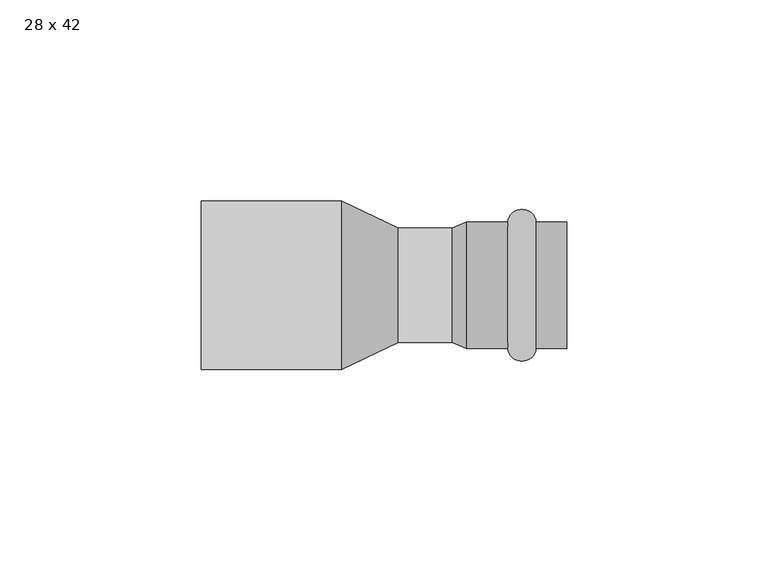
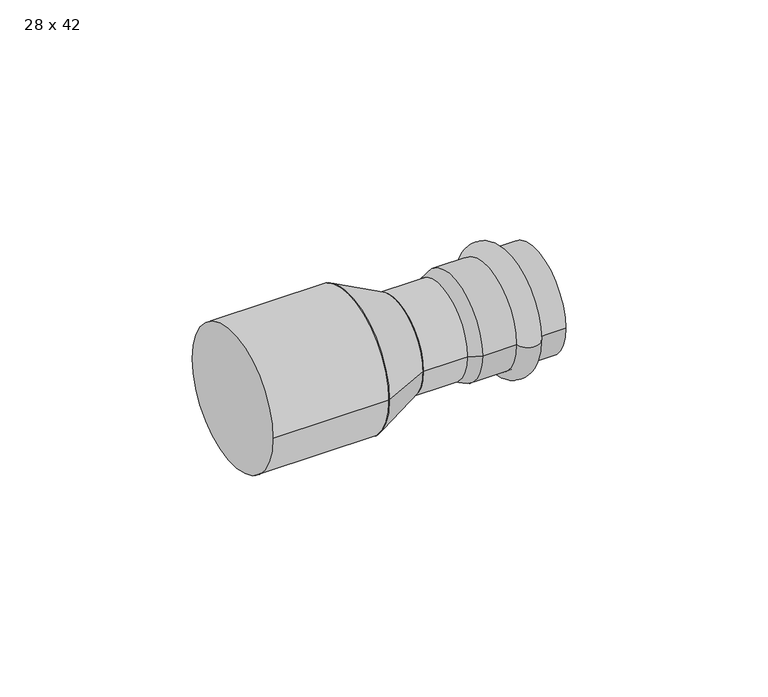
"""IFC4 building model written with IfcOpenShell, lengths in millimetres: pipe fitting geometry, РЕХАУ_Пресс Вставка переходная : 28 x 42."""

from ifc_helpers import new_model, si_unit, point, frame, origin, origin_2d, place, context, project, spatial, polyline, circle_curve, ellipse_curve, trimmed, segment, composite_curve, outline, extrude, source, transform, mapped, element, save
from ifc_brep_helpers import plane_surface, cylinder_surface, revolved_surface, advanced_brep


def pipe_fitting_28_x_42_a3f3c716(model_context):
    return source(origin(), model_context, "Body", "SolidModel", [
        advanced_brep(
        [(83.3, 15.75, 0.0), (83.3, -15.75, 0.0), (76.3, -15.75, 0.0), (76.3, 15.75, 0.0)],
        [
            (0, 1, circle_curve(frame((83.3, 0.0, 0.0), z_axis=(1.0, 0.0, 0.0), x_axis=(0.0, -1.0, 0.0)), 15.75)),
            (1, 2),
            (2, 3, circle_curve(frame((76.3, 0.0, 0.0), z_axis=(-1.0, 0.0, 0.0), x_axis=(0.0, -1.0, 0.0)), 15.75)),
            (3, 0),
            (1, 0, circle_curve(frame((83.3, 0.0, 0.0), z_axis=(1.0, 0.0, 0.0), x_axis=(0.0, -1.0, 0.0)), 15.75)),
            (3, 2, circle_curve(frame((76.3, 0.0, 0.0), z_axis=(-1.0, 0.0, 0.0), x_axis=(0.0, -1.0, 0.0)), 15.75)),
            (2, 1, ellipse_curve(frame((79.8, -15.75, 0.0), z_axis=(0.0, 0.0, 1.0), x_axis=(1.0, 0.0, 0.0)), 3.5, 3.1)),
            (0, 3, ellipse_curve(frame((79.8, 15.75, 0.0), z_axis=(0.0, 0.0, 1.0), x_axis=(1.0, 0.0, 0.0)), 3.5, 3.1)),
        ],
        [
            revolved_surface(polyline([(76.3, -15.75, 0.0), (83.3, -15.75, 0.0)]), (63.3, 0.0, 0.0), (-1.0, 0.0, 0.0)),
            revolved_surface(trimmed(ellipse_curve(frame((79.8, -15.75, 0.0), z_axis=(0.0, 0.0, -1.0), x_axis=(1.0, 0.0, 0.0)), 3.5, 3.1), [point((83.3, -15.75, 0.0))], [point((76.3, -15.75, 0.0))], True, "CARTESIAN"), (63.3, 0.0, 0.0), (-1.0, 0.0, 0.0)),
        ],
        [
            (0, [[1, 2, 3, 4]]),
            (0, [[5, -4, 6, -2]]),
            (1, [[-3, 7, -1, 8]]),
            (1, [[-6, -8, -5, -7]]),
        ],
    ),
        advanced_brep(
        [(62.4662215, 14.25, 0.0), (62.4662215, -14.25, 0.0), (66.0, -15.75, 0.0), (66.0, 15.75, 0.0), (91.0, 14.25, 0.0), (91.0, -14.25, 0.0), (91.0, 15.75, 0.0), (91.0, -15.75, 0.0)],
        [
            (0, 1, circle_curve(frame((62.4662215, 0.0, 0.0), z_axis=(1.0, 0.0, 0.0), x_axis=(0.0, -1.0, 0.0)), 14.25)),
            (1, 2),
            (2, 3, circle_curve(frame((66.0, 0.0, 0.0), z_axis=(-1.0, 0.0, 0.0), x_axis=(0.0, -1.0, 0.0)), 15.75)),
            (3, 0),
            (1, 0, circle_curve(frame((62.4662215, 0.0, 0.0), z_axis=(1.0, 0.0, 0.0), x_axis=(0.0, -1.0, 0.0)), 14.25)),
            (3, 2, circle_curve(frame((66.0, 0.0, 0.0), z_axis=(-1.0, 0.0, 0.0), x_axis=(0.0, -1.0, 0.0)), 15.75)),
            (4, 5, circle_curve(frame((91.0, 0.0, 0.0), z_axis=(1.0, 0.0, 0.0), x_axis=(0.0, -1.0, 0.0)), 14.25)),
            (5, 1),
            (0, 4),
            (5, 4, circle_curve(frame((91.0, 0.0, 0.0), z_axis=(1.0, 0.0, 0.0), x_axis=(0.0, -1.0, 0.0)), 14.25)),
            (6, 7, circle_curve(frame((91.0, 0.0, 0.0), z_axis=(1.0, 0.0, 0.0), x_axis=(0.0, -1.0, 0.0)), 15.75)),
            (7, 5),
            (4, 6),
            (7, 6, circle_curve(frame((91.0, 0.0, 0.0), z_axis=(1.0, 0.0, 0.0), x_axis=(0.0, -1.0, 0.0)), 15.75)),
            (2, 7),
            (6, 3),
        ],
        [
            revolved_surface(polyline([(66.0, -15.75, 0.0), (62.4662215, -14.25, 0.0)]), (63.3, 0.0, 0.0), (-1.0, 0.0, 0.0)),
            revolved_surface(polyline([(62.4662215, -14.25, 0.0), (91.0, -14.25, 0.0)]), (63.3, 0.0, 0.0), (-1.0, 0.0, 0.0)),
            plane_surface(frame((91.0, 0.0, 0.0), z_axis=(1.0, 0.0, 0.0), x_axis=(0.0, -1.0, 0.0))),
            cylinder_surface(frame((63.3, 0.0, 0.0), z_axis=(-1.0, 0.0, 0.0), x_axis=(0.0, -1.0, 0.0)), 15.75),
        ],
        [
            (0, [[1, 2, 3, 4]]),
            (0, [[5, -4, 6, -2]]),
            (1, [[7, 8, -1, 9]]),
            (1, [[10, -9, -5, -8]]),
            (2, [[11, 12, -7, 13]]),
            (2, [[14, -13, -10, -12]]),
            (3, [[-3, 15, -11, 16]]),
            (3, [[-6, -16, -14, -15]]),
        ],
    ),
        extrude(outline(composite_curve([segment(trimmed(circle_curve(origin_2d(), 14.25), [point((-14.25, 0.0))], [point((14.25, 0.0))], False, "CARTESIAN"), True, "CONTINUOUS"), segment(trimmed(circle_curve(origin_2d(), 14.25), [point((14.25, 0.0))], [point((-14.25, 0.0))], False, "CARTESIAN"), True, "CONTINUOUS")], self_intersect=False)), frame((49.1, 0.0, 0.0), z_axis=(1.0, 0.0, 0.0), x_axis=(0.0, 1.0, 0.0)), (0.0, 0.0, 1.0), 16.9),
        advanced_brep(
        [(49.1, -14.25, 0.0), (49.1, 14.25, 0.0), (35.0, -21.0, 0.0), (35.0, 21.0, 0.0)],
        [
            (0, 1, circle_curve(frame((49.1, 0.0, 0.0), z_axis=(1.0, 0.0, 0.0), x_axis=(0.0, -1.0, 0.0)), 14.25)),
            (1, 0, circle_curve(frame((49.1, 0.0, 0.0), z_axis=(1.0, 0.0, 0.0), x_axis=(0.0, 1.0, 0.0)), 14.25)),
            (2, 3, circle_curve(frame((35.0, 0.0, 0.0), z_axis=(-1.0, 0.0, 0.0), x_axis=(0.0, 1.0, 0.0)), 21.0)),
            (3, 2, circle_curve(frame((35.0, 0.0, 0.0), z_axis=(-1.0, 0.0, 0.0), x_axis=(0.0, -1.0, 0.0)), 21.0)),
            (3, 1),
            (0, 2),
        ],
        [
            plane_surface(frame((49.1, 0.0, 0.0), z_axis=(1.0, 0.0, 0.0), x_axis=(0.0, 0.0, -1.0))),
            plane_surface(frame((35.0, 0.0, 0.0), z_axis=(-1.0, 0.0, 0.0), x_axis=(0.0, 0.0, -1.0))),
            revolved_surface(polyline([(49.1, -14.250000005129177, 0.0), (35.0, -21.0, 0.0)]), (78.8666667, 0.0, 0.0), (-1.0, 0.0, 0.0)),
            revolved_surface(polyline([(49.1, 14.250000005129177, 0.0), (35.0, 21.0, 0.0)]), (78.8666667, 0.0, 0.0), (-1.0, 0.0, 0.0)),
        ],
        [
            (0, [[1, 2]]),
            (1, [[3, 4]]),
            (2, [[-4, 5, -1, 6]]),
            (3, [[-3, -6, -2, -5]]),
        ],
    ),
        extrude(outline(composite_curve([segment(trimmed(circle_curve(origin_2d(), 21.0), [point((-21.0, 0.0))], [point((21.0, 0.0))], False, "CARTESIAN"), True, "CONTINUOUS"), segment(trimmed(circle_curve(origin_2d(), 21.0), [point((21.0, 0.0))], [point((-21.0, 0.0))], False, "CARTESIAN"), True, "CONTINUOUS")], self_intersect=False)), frame((0.0, 0.0, 0.0), z_axis=(1.0, 0.0, 0.0), x_axis=(0.0, 1.0, 0.0)), (0.0, 0.0, 1.0), 35.0),
    ])


if __name__ == "__main__":
    model = new_model("IFC4")
    model_context = context("Model", 3, world=origin())
    ifc_project = project(units=[si_unit("LENGTHUNIT", "METRE", prefix="MILLI")], contexts=[model_context])
    site = spatial("IfcSite", under=ifc_project)
    building = spatial("IfcBuilding", under=site)
    placement = place(None, origin())
    pipe_fitting_28_x_42_shape = pipe_fitting_28_x_42_a3f3c716(model_context)
    element("IfcPipeFitting", 1, ObjectType="РЕХАУ_Пресс Вставка переходная : 28 x 42", at=placement, inside=building, context=model_context, shape_type="MappedRepresentation", body=[
        mapped(pipe_fitting_28_x_42_shape, transform((0.0, 0.0, 0.0), x_axis=(1.0, 0.0, 0.0), y_axis=(0.0, 1.0, 0.0), z_axis=(0.0, 0.0, 1.0))),
    ])
    save(model, "model.ifc")
